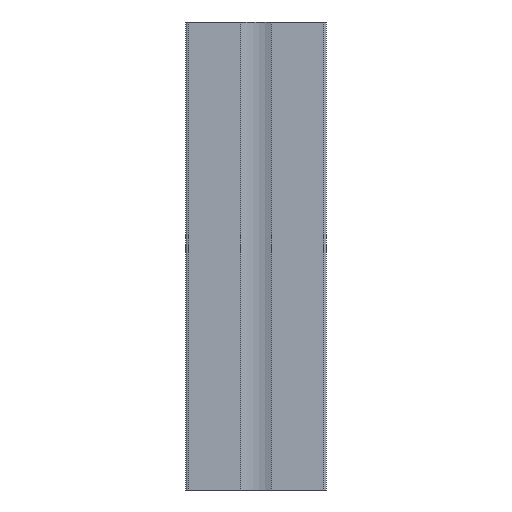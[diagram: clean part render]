
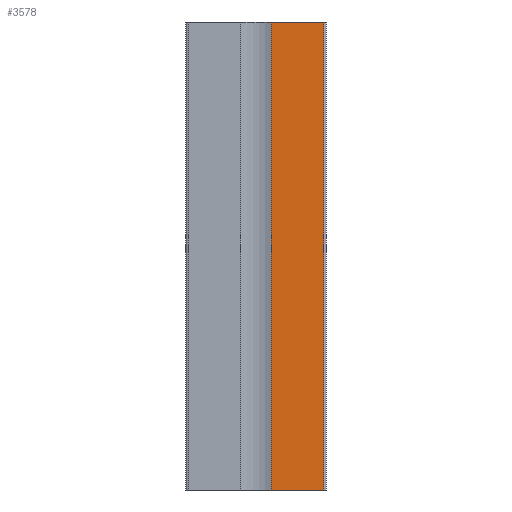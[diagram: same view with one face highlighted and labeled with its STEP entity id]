
A CAD part, front view. The second image highlights one B-rep face of the part: STEP entity #3578.
In plain terms, the highlighted planar face has unit normal (0, -1, 0).
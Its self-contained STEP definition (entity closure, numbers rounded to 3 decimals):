
#112=PLANE('',#3874);
#284=FACE_OUTER_BOUND('',#462,.T.);
#462=EDGE_LOOP('',(#2893,#2894,#2895,#2896));
#824=LINE('',#5806,#1224);
#825=LINE('',#5809,#1225);
#826=LINE('',#5811,#1226);
#827=LINE('',#5812,#1227);
#1224=VECTOR('',#4762,100.);
#1225=VECTOR('',#4765,11.25);
#1226=VECTOR('',#4766,11.25);
#1227=VECTOR('',#4767,100.);
#1723=VERTEX_POINT('',#5802);
#1724=VERTEX_POINT('',#5804);
#1725=VERTEX_POINT('',#5808);
#1726=VERTEX_POINT('',#5810);
#2220=EDGE_CURVE('',#1723,#1724,#824,.T.);
#2221=EDGE_CURVE('',#1725,#1723,#825,.T.);
#2222=EDGE_CURVE('',#1726,#1724,#826,.T.);
#2223=EDGE_CURVE('',#1725,#1726,#827,.T.);
#2893=ORIENTED_EDGE('',*,*,#2221,.T.);
#2894=ORIENTED_EDGE('',*,*,#2220,.T.);
#2895=ORIENTED_EDGE('',*,*,#2222,.F.);
#2896=ORIENTED_EDGE('',*,*,#2223,.F.);
#3578=ADVANCED_FACE('',(#284),#112,.T.);
#3874=AXIS2_PLACEMENT_3D('',#5807,#4763,#4764);
#4762=DIRECTION('',(0.,0.,1.));
#4763=DIRECTION('center_axis',(0.,-1.,0.));
#4764=DIRECTION('ref_axis',(1.,0.,0.));
#4765=DIRECTION('',(1.,0.,0.));
#4766=DIRECTION('',(1.,0.,0.));
#4767=DIRECTION('',(0.,0.,1.));
#5802=CARTESIAN_POINT('',(14.318,-14.274,0.));
#5804=CARTESIAN_POINT('',(14.318,-14.274,100.));
#5806=CARTESIAN_POINT('',(14.318,-14.274,0.));
#5807=CARTESIAN_POINT('Origin',(3.068,-14.274,0.));
#5808=CARTESIAN_POINT('',(3.068,-14.274,0.));
#5809=CARTESIAN_POINT('',(3.068,-14.274,0.));
#5810=CARTESIAN_POINT('',(3.068,-14.274,100.));
#5811=CARTESIAN_POINT('',(3.068,-14.274,100.));
#5812=CARTESIAN_POINT('',(3.068,-14.274,0.));
